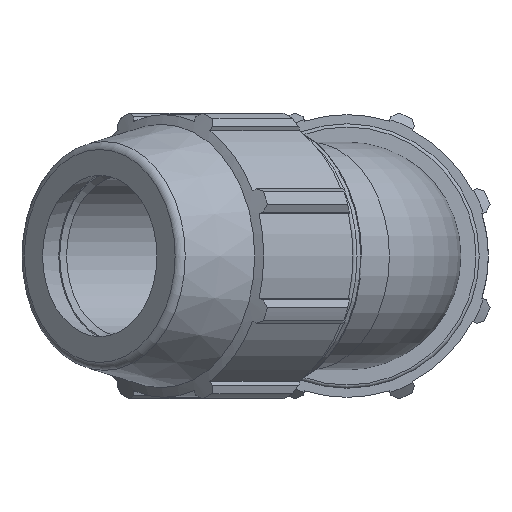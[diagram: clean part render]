
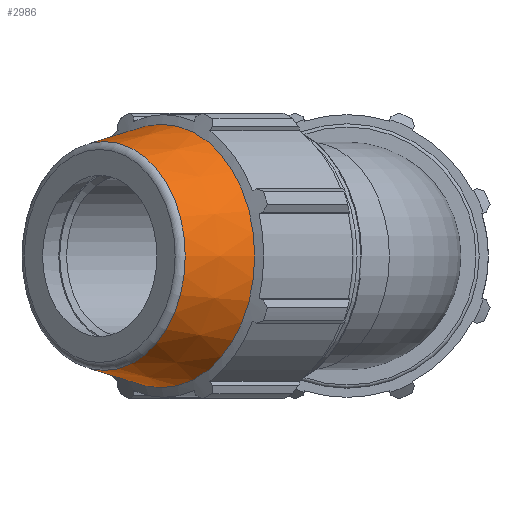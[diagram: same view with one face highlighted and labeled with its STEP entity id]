
A CAD part, left-side view. The second image highlights one B-rep face of the part: STEP entity #2986.
In plain terms, the highlighted conical face has half-angle 12 degrees and reference radius 45.525 mm.
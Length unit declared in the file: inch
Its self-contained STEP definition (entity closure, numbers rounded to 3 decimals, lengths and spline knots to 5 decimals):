
#342=LINE('',#5121,#550);
#550=VECTOR('',#4115,1.79234);
#640=CONICAL_SURFACE('',#3307,1.79234,0.209);
#782=FACE_OUTER_BOUND('',#936,.T.);
#936=EDGE_LOOP('',(#2628,#2629,#2630,#2631,#2632,#2633,#2634));
#1058=CIRCLE('',#3236,1.92837);
#1059=CIRCLE('',#3237,1.92837);
#1095=CIRCLE('',#3303,1.67622);
#1096=CIRCLE('',#3304,1.67622);
#1097=CIRCLE('',#3305,1.67622);
#1340=VERTEX_POINT('',#4945);
#1341=VERTEX_POINT('',#4946);
#1391=VERTEX_POINT('',#5112);
#1392=VERTEX_POINT('',#5114);
#1393=VERTEX_POINT('',#5116);
#1730=EDGE_CURVE('',#1340,#1341,#1058,.T.);
#1731=EDGE_CURVE('',#1341,#1340,#1059,.T.);
#1817=EDGE_CURVE('',#1391,#1392,#1095,.T.);
#1818=EDGE_CURVE('',#1392,#1393,#1096,.T.);
#1819=EDGE_CURVE('',#1393,#1391,#1097,.T.);
#1821=EDGE_CURVE('',#1392,#1341,#342,.T.);
#2628=ORIENTED_EDGE('',*,*,#1819,.F.);
#2629=ORIENTED_EDGE('',*,*,#1818,.F.);
#2630=ORIENTED_EDGE('',*,*,#1821,.T.);
#2631=ORIENTED_EDGE('',*,*,#1731,.T.);
#2632=ORIENTED_EDGE('',*,*,#1730,.T.);
#2633=ORIENTED_EDGE('',*,*,#1821,.F.);
#2634=ORIENTED_EDGE('',*,*,#1817,.F.);
#2986=ADVANCED_FACE('',(#782),#640,.T.);
#3236=AXIS2_PLACEMENT_3D('',#4947,#3921,#3922);
#3237=AXIS2_PLACEMENT_3D('',#4948,#3923,#3924);
#3303=AXIS2_PLACEMENT_3D('',#5115,#4105,#4106);
#3304=AXIS2_PLACEMENT_3D('',#5117,#4107,#4108);
#3305=AXIS2_PLACEMENT_3D('',#5118,#4109,#4110);
#3307=AXIS2_PLACEMENT_3D('',#5120,#4113,#4114);
#3921=DIRECTION('center_axis',(-0.707,0.707,0.));
#3922=DIRECTION('ref_axis',(0.,0.,-1.));
#3923=DIRECTION('center_axis',(-0.707,0.707,0.));
#3924=DIRECTION('ref_axis',(0.,0.,-1.));
#4105=DIRECTION('center_axis',(-0.707,0.707,0.));
#4106=DIRECTION('ref_axis',(0.707,0.707,0.));
#4107=DIRECTION('center_axis',(-0.707,0.707,0.));
#4108=DIRECTION('ref_axis',(0.707,0.707,0.));
#4109=DIRECTION('center_axis',(-0.707,0.707,0.));
#4110=DIRECTION('ref_axis',(0.707,0.707,0.));
#4113=DIRECTION('center_axis',(0.707,-0.707,0.));
#4114=DIRECTION('ref_axis',(-0.707,-0.707,0.));
#4115=DIRECTION('',(0.839,-0.545,0.));
#4945=CARTESIAN_POINT('',(-4.07885,1.35173,0.));
#4946=CARTESIAN_POINT('',(-1.35173,4.07885,0.));
#4947=CARTESIAN_POINT('Origin',(-2.71529,2.71529,0.));
#4948=CARTESIAN_POINT('Origin',(-2.71529,2.71529,0.));
#5112=CARTESIAN_POINT('',(-3.55412,3.55412,1.67622));
#5114=CARTESIAN_POINT('',(-2.36886,4.73939,0.));
#5115=CARTESIAN_POINT('Origin',(-3.55412,3.55412,0.));
#5116=CARTESIAN_POINT('',(-4.73939,2.36886,0.));
#5117=CARTESIAN_POINT('Origin',(-3.55412,3.55412,0.));
#5118=CARTESIAN_POINT('Origin',(-3.55412,3.55412,0.));
#5120=CARTESIAN_POINT('Origin',(-3.16784,3.16784,0.));
#5121=CARTESIAN_POINT('',(-1.90047,4.43521,0.));
